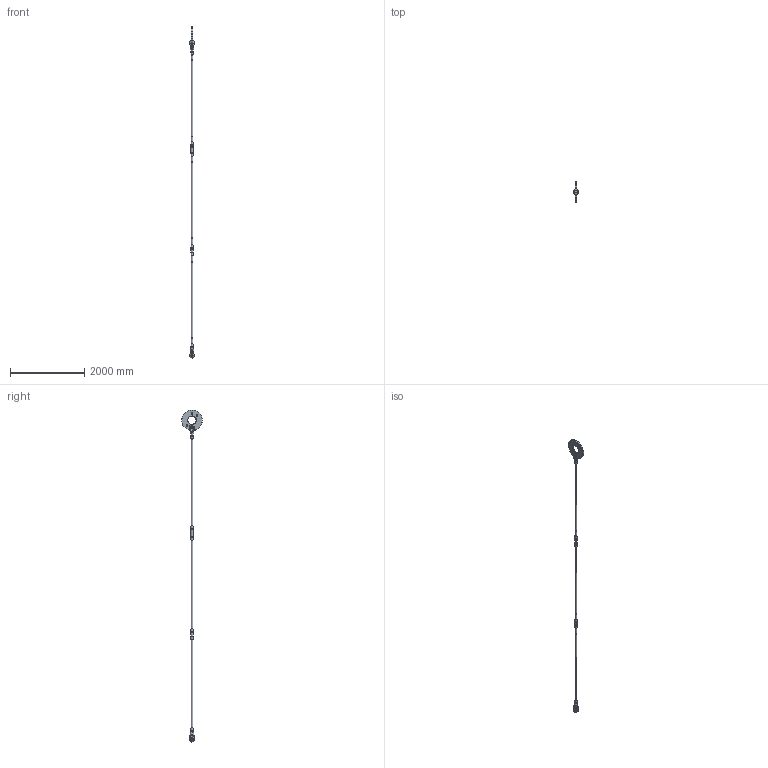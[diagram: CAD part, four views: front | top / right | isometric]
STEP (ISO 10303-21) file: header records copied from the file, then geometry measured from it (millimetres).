
FILE_DESCRIPTION(/* description */ (''),/* implementation_level */ '2;1');
FILE_NAME(/* name */ 'C:\Vault-WS\Anker\Werksnorm\Hochbau\ASDO-System\ASDO-S\System Komplett\Step\M 045.stp',/* time_stamp */ '2014-01-30T09:18:02+01:00',/* author */ ('ritgen'),/* organization */ (''),/* preprocessor_version */ 'ST-DEVELOPER v15.2',/* originating_system */ 'Autodesk Inventor 2014',/* authorisation */ '');
FILE_SCHEMA (('AUTOMOTIVE_DESIGN { 1 0 10303 214 3 1 1 }'));
Length unit declared in the file: millimetre
Products named in the file (11): ASDO-005759; ASDO-006547; ASDO-014322; DIN 7991 - M8x20 - 8.8; ASDO-013933; ASDO-001679; ASDO-001325; ASDO-001451; ASDO-013976; ASDO-014010; ASDO-013975
Bounding box: 112 x 554.47 x 8966.3 mm (x, y, z)
Volume: 23787206.8 mm3; surface area: 2335469.9 mm2
Topology: 20 solids, 20 shells, 469 faces, 1002 edges, 614 vertices
Faces by surface type: plane 160, bspline 144, cylinder 79, cone 44, torus 42
Full cylindrical faces by diameter (mm): 6.647 x2, 7 x18, 8 x2, 10 x2, 16 x2, 40.129 x11, 45 x5, 47 x8, 48 x1, 48.5 x6, 64 x6, 68 x6, 225 x1, 555 x1
Entity records: 13876 total; most frequent: CARTESIAN_POINT 9439, DIRECTION 808, ORIENTED_EDGE 796, EDGE_CURVE 398, AXIS2_PLACEMENT_3D 363, EDGE_LOOP 326, VERTEX_POINT 278, ADVANCED_FACE 220
